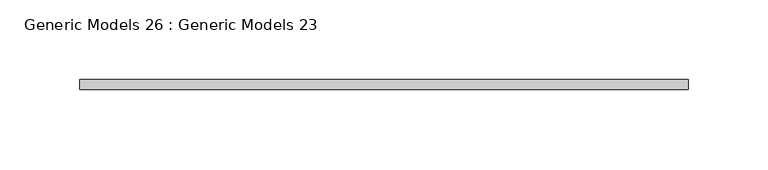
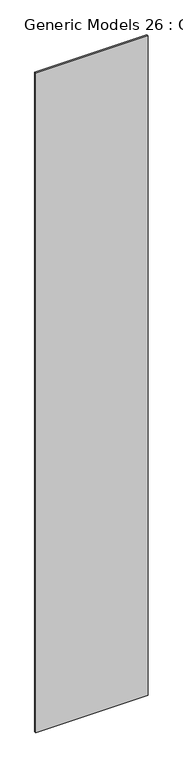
"""IFC4 building model written with IfcOpenShell, lengths in millimetres: proxy geometry, Generic Models 26 : Generic Models 23."""

from ifc_helpers import new_model, si_unit, frame, origin, place, context, project, spatial, polyline, outline, extrude, source, transform, mapped, element, save


def generic_models_26_generic_models_23_41ab4bd3(model_context):
    return source(origin(), model_context, "Body", "SweptSolid", [
        extrude(outline(polyline([(91043.8774986, 13137.5207549), (91423.9501918, 13137.5207549), (91423.9501918, 13131.4952727), (91043.8774986, 13131.4952727), (91043.8774986, 13137.5207549)])), frame((0.0, 0.0, 450.0), z_axis=(0.0, 0.0, 1.0), x_axis=(1.0, 0.0, 0.0)), (0.0, 0.0, 1.0), 2360.0376502),
    ])


if __name__ == "__main__":
    model = new_model("IFC4")
    model_context = context("Model", 3, world=origin())
    ifc_project = project(units=[si_unit("LENGTHUNIT", "METRE", prefix="MILLI")], contexts=[model_context])
    site = spatial("IfcSite", under=ifc_project)
    building = spatial("IfcBuilding", under=site)
    placement = place(None, origin())
    generic_models_26_generic_models_23_shape = generic_models_26_generic_models_23_41ab4bd3(model_context)
    element("IfcBuildingElementProxy", 1, Name="Generic Models 26 : Generic Models 23", ObjectType="Generic Models 26 : Generic Models 23", at=placement, inside=building, context=model_context, shape_type="MappedRepresentation", body=[
        mapped(generic_models_26_generic_models_23_shape, transform((0.0, 0.0, 0.0), x_axis=(1.0, 0.0, 0.0), y_axis=(0.0, 1.0, 0.0), z_axis=(0.0, 0.0, 1.0))),
    ])
    save(model, "model.ifc")
